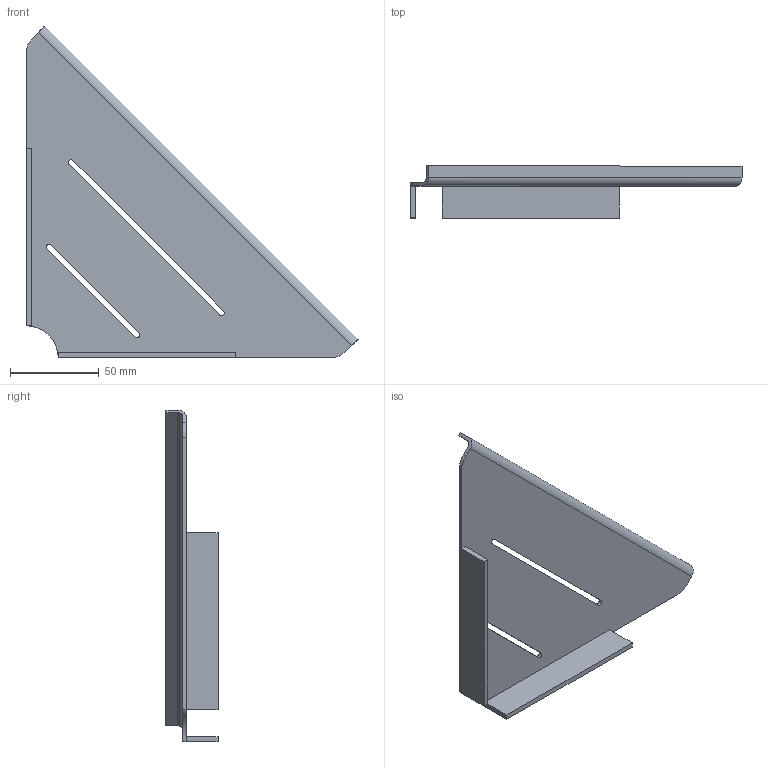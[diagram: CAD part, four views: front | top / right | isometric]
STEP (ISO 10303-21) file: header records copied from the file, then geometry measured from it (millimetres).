
FILE_DESCRIPTION(('FreeCAD Model'),'2;1');
FILE_NAME('Open CASCADE Shape Model','2024-08-10T18:05:16',('Author'),( ''),'Open CASCADE STEP processor 7.6','FreeCAD','Unknown');
FILE_SCHEMA(('AUTOMOTIVE_DESIGN { 1 0 10303 214 1 1 1 1 }'));
Length unit declared in the file: millimetre
Products named in the file (4): TopLevelAssembly; Połączona geometria bryłowa; Wyciągnięcie po ścieżce; Wyciągnięcie po ścieżce001
Assembly tree (3 placements, depth 2):
  TopLevelAssembly
    Połączona geometria bryłowa
    Wyciągnięcie po ścieżce
    Wyciągnięcie po ścieżce001
Bounding box: 187.38 x 29.4 x 187.38 mm (x, y, z)
Volume: 51695.9 mm3; surface area: 51582.9 mm2
Topology: 3 solids, 3 shells, 34 faces, 84 edges, 56 vertices
Faces by surface type: plane 25, cylinder 9
Entity records: 1106 total; most frequent: CARTESIAN_POINT 178, DIRECTION 178, ORIENTED_EDGE 168, EDGE_CURVE 84, LINE 66, VECTOR 66, AXIS2_PLACEMENT_3D 56, VERTEX_POINT 56
